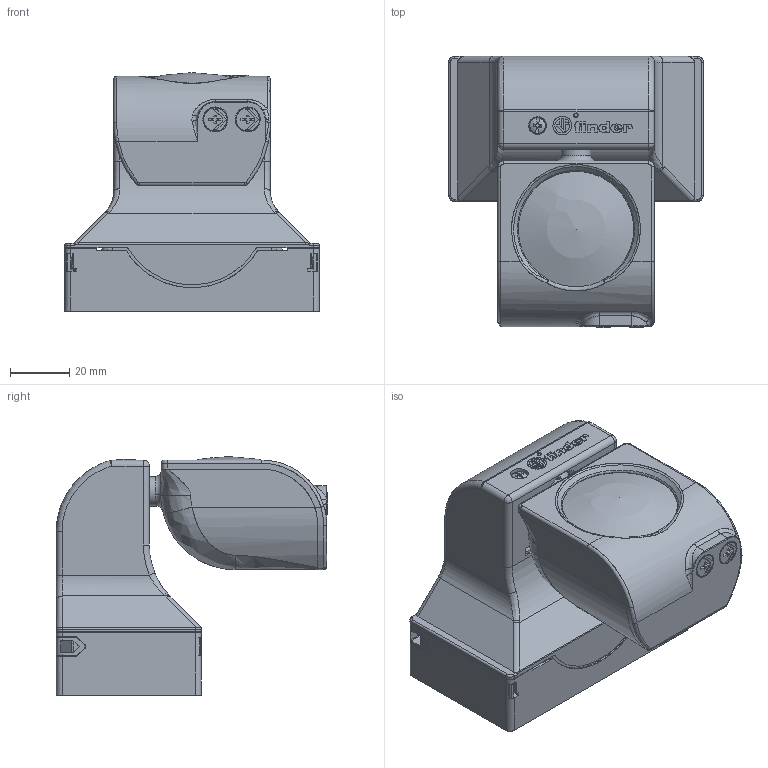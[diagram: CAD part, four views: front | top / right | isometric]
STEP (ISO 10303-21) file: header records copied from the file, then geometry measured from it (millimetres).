
FILE_DESCRIPTION( ( 'Unknown' ), '1' );
FILE_NAME( 'H:/Disegni/Lavori in sospeso/Catalogo/18 aggiornamento catalogo/18A1/catalogo/18A1_rev00_f.stp', 'Unknown', ( 'Unknown' ), ( 'Unknown' ), 'PSStep 15.0.49', 'Unknown', ' ' );
FILE_SCHEMA( ( 'AUTOMOTIVE_DESIGN { 1 0 10303 214 1 1 1 1 }' ) );
Length unit declared in the file: millimetre
Products named in the file (396): Assem1; 118539; 118601 guarnizione 1187001; 1187006; 118705; 118725; 118726; 1187421; 118744; 1187800; cs 18.a1 aus; piro LHi968; trimmer piccolo Piher PT6-oa0; trimmer piccolo Piher PT6-oa1
Assembly tree (395 placements, depth 2):
  Assem1
    118539
    118601 guarnizione 1187001
    118601 guarnizione 1187001
    118601 guarnizione 1187001
    118601 guarnizione 1187001
    118601 guarnizione 1187001
    118601 guarnizione 1187001
    1187006
    118705
    118705
    118705
    118705
    118705
    118705
    118705
    118705
    118705
    118705
    118705
    118705
    118705
    118705
    118705
    118705
    118705
    118705
    118705
    118705
    118705
    118705
    118705
    118705
    118705
    118705
    118705
    118705
    118705
    118705
    118705
    118705
    118705
    118705
    118705
    118705
    118705
    118705
    118705
    118705
    118705
    118705
    118705
    118705
    118705
    118705
    118705
    118705
    118705
    118705
    118705
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Bounding box: 86 x 91.85 x 80.71 mm (x, y, z)
Surface area: 55085.7 mm2 (no closed solid volume)
Topology: 0 solids, 758 shells, 758 faces, 4358 edges, 4326 vertices
Faces by surface type: plane 439, cylinder 200, torus 55, bspline 40, sphere 11, extrusion 7, cone 6
Full cylindrical faces by diameter (mm): 5.6 x1, 6 x1, 6.342 x1, 7.8 x2, 8 x2, 8.2 x1, 10 x1
Entity records: 67479 total; most frequent: CARTESIAN_POINT 31389, VERTEX_POINT 4316, ORIENTED_EDGE 4313, EDGE_CURVE 4313, B_SPLINE_CURVE_WITH_KNOTS 4262, DIRECTION 2221, AXIS2_PLACEMENT_3D 1107, FACE_BOUND 833
